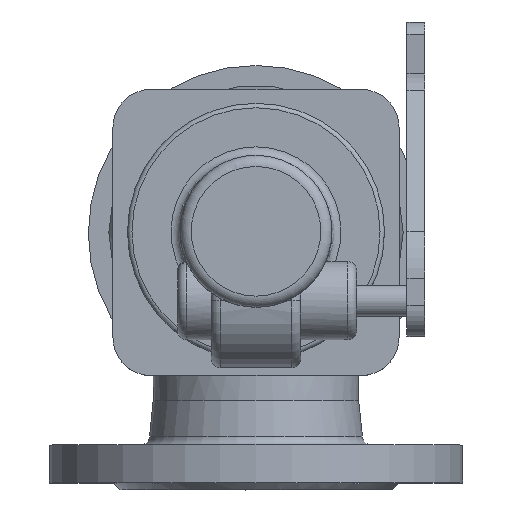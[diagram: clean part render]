
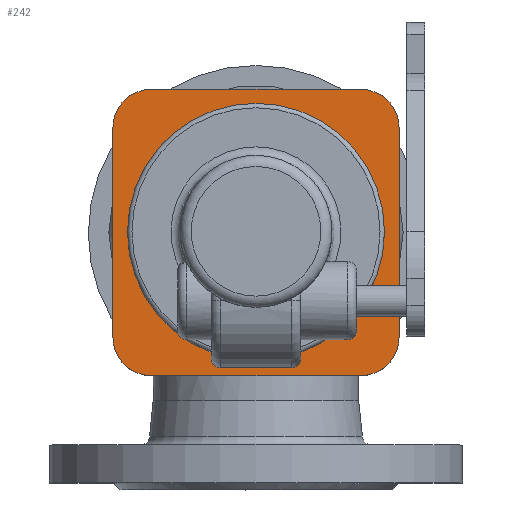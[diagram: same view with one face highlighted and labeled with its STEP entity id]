
A CAD part, top view. The second image highlights one B-rep face of the part: STEP entity #242.
In plain terms, the highlighted planar face has unit normal (0, 0, 1).
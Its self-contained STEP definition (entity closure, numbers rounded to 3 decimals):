
#242=ADVANCED_FACE('',(#1519,#1521),#1523,.T.);
#1519=FACE_BOUND('',#1520,.T.);
#1520=EDGE_LOOP('',(#2680,#2681,#2682,#2683,#2684,#2685,#2686,#2687));
#1521=FACE_BOUND('',#1522,.T.);
#1522=EDGE_LOOP('',(#2688));
#1523=PLANE('',#1524);
#1524=AXIS2_PLACEMENT_3D('',#1525,#1526,#1527);
#1525=CARTESIAN_POINT('',(0.,0.,204.));
#1526=DIRECTION('',(0.,0.,1.));
#1527=DIRECTION('',(0.,-1.,0.));
#2680=ORIENTED_EDGE('',*,*,#3370,.T.);
#2681=ORIENTED_EDGE('',*,*,#3371,.T.);
#2682=ORIENTED_EDGE('',*,*,#3372,.T.);
#2683=ORIENTED_EDGE('',*,*,#3373,.T.);
#2684=ORIENTED_EDGE('',*,*,#3374,.T.);
#2685=ORIENTED_EDGE('',*,*,#3375,.T.);
#2686=ORIENTED_EDGE('',*,*,#3376,.T.);
#2687=ORIENTED_EDGE('',*,*,#3377,.T.);
#2688=ORIENTED_EDGE('',*,*,#3367,.F.);
#3367=EDGE_CURVE('',#3779,#3779,#3780,.T.);
#3370=EDGE_CURVE('',#3785,#3786,#3787,.T.);
#3371=EDGE_CURVE('',#3786,#3788,#3789,.T.);
#3372=EDGE_CURVE('',#3788,#3790,#3791,.T.);
#3373=EDGE_CURVE('',#3790,#3792,#3793,.T.);
#3374=EDGE_CURVE('',#3792,#3794,#3795,.T.);
#3375=EDGE_CURVE('',#3794,#3796,#3797,.T.);
#3376=EDGE_CURVE('',#3796,#3798,#3799,.T.);
#3377=EDGE_CURVE('',#3798,#3785,#3800,.T.);
#3779=VERTEX_POINT('',#5013);
#3780=CIRCLE('',#5014,46.);
#3785=VERTEX_POINT('',#5028);
#3786=VERTEX_POINT('',#5029);
#3787=CIRCLE('',#5030,17.);
#3788=VERTEX_POINT('',#5034);
#3789=LINE('',#5035,#5036);
#3790=VERTEX_POINT('',#5038);
#3791=CIRCLE('',#5039,17.);
#3792=VERTEX_POINT('',#5043);
#3793=LINE('',#5044,#5045);
#3794=VERTEX_POINT('',#5047);
#3795=CIRCLE('',#5048,17.);
#3796=VERTEX_POINT('',#5052);
#3797=LINE('',#5053,#5054);
#3798=VERTEX_POINT('',#5056);
#3799=CIRCLE('',#5057,17.);
#3800=LINE('',#5061,#5062);
#5013=CARTESIAN_POINT('',(0.,46.,204.));
#5014=AXIS2_PLACEMENT_3D('',#5015,#5016,#5017);
#5015=CARTESIAN_POINT('',(0.,0.,204.));
#5016=DIRECTION('',(0.,0.,1.));
#5017=DIRECTION('',(0.,-1.,0.));
#5028=CARTESIAN_POINT('',(-64.,-47.,204.));
#5029=CARTESIAN_POINT('',(-47.,-64.,204.));
#5030=AXIS2_PLACEMENT_3D('',#5031,#5032,#5033);
#5031=CARTESIAN_POINT('',(-47.,-47.,204.));
#5032=DIRECTION('',(0.,0.,1.));
#5033=DIRECTION('',(-1.,0.,0.));
#5034=CARTESIAN_POINT('',(47.,-64.,204.));
#5035=CARTESIAN_POINT('',(-47.,-64.,204.));
#5036=VECTOR('',#5037,1.);
#5037=DIRECTION('',(1.,0.,0.));
#5038=CARTESIAN_POINT('',(64.,-47.,204.));
#5039=AXIS2_PLACEMENT_3D('',#5040,#5041,#5042);
#5040=CARTESIAN_POINT('',(47.,-47.,204.));
#5041=DIRECTION('',(0.,0.,1.));
#5042=DIRECTION('',(0.,-1.,0.));
#5043=CARTESIAN_POINT('',(64.,47.,204.));
#5044=CARTESIAN_POINT('',(64.,-47.,204.));
#5045=VECTOR('',#5046,1.);
#5046=DIRECTION('',(0.,1.,0.));
#5047=CARTESIAN_POINT('',(47.,64.,204.));
#5048=AXIS2_PLACEMENT_3D('',#5049,#5050,#5051);
#5049=CARTESIAN_POINT('',(47.,47.,204.));
#5050=DIRECTION('',(0.,0.,1.));
#5051=DIRECTION('',(1.,0.,0.));
#5052=CARTESIAN_POINT('',(-47.,64.,204.));
#5053=CARTESIAN_POINT('',(47.,64.,204.));
#5054=VECTOR('',#5055,1.);
#5055=DIRECTION('',(-1.,0.,0.));
#5056=CARTESIAN_POINT('',(-64.,47.,204.));
#5057=AXIS2_PLACEMENT_3D('',#5058,#5059,#5060);
#5058=CARTESIAN_POINT('',(-47.,47.,204.));
#5059=DIRECTION('',(0.,0.,1.));
#5060=DIRECTION('',(0.,1.,0.));
#5061=CARTESIAN_POINT('',(-64.,47.,204.));
#5062=VECTOR('',#5063,1.);
#5063=DIRECTION('',(0.,-1.,0.));
